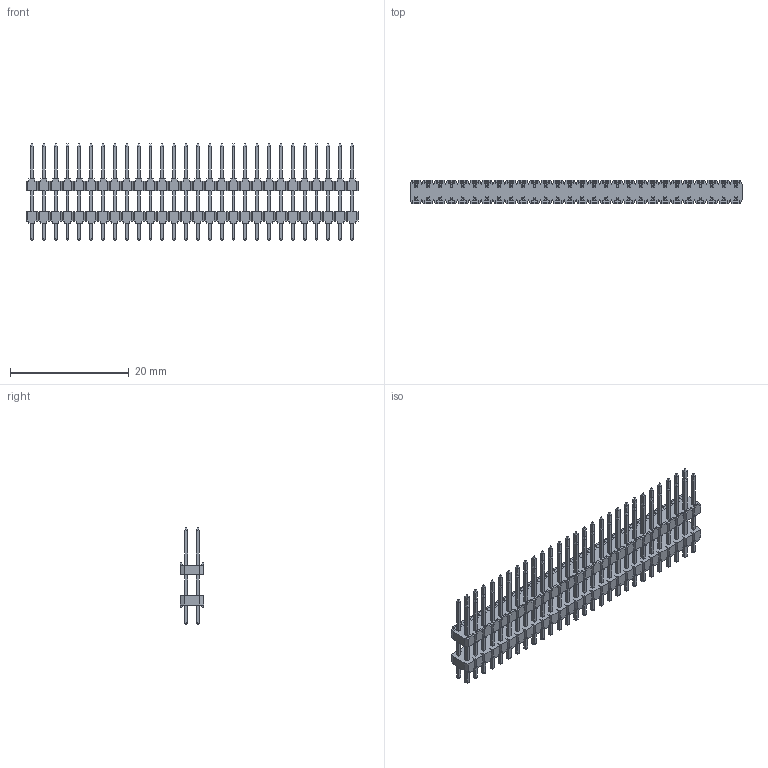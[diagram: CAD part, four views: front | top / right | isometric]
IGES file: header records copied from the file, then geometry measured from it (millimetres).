
Global section: file name: N:\GOLF_VI_2mm_UGII\9514XX_806XX06_AR\951456-8061506-AR.igs; native system: NX V3.0; preprocessor: UGS NX IGES V4.0; date: 20070314.102627; units: millimetre
Bounding box: 56 x 4 x 16.2 mm (x, y, z)
Surface area: 2906.6 mm2 (no closed solid volume)
Topology: 0 solids, 0 shells, 2024 faces, 10553 edges, 10553 vertices
Faces by surface type: bspline 2024
